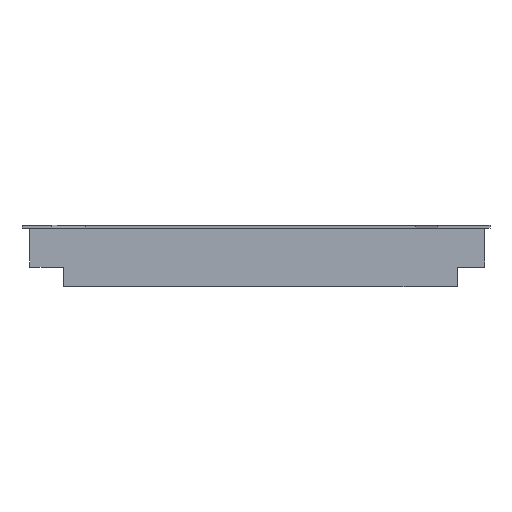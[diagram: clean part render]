
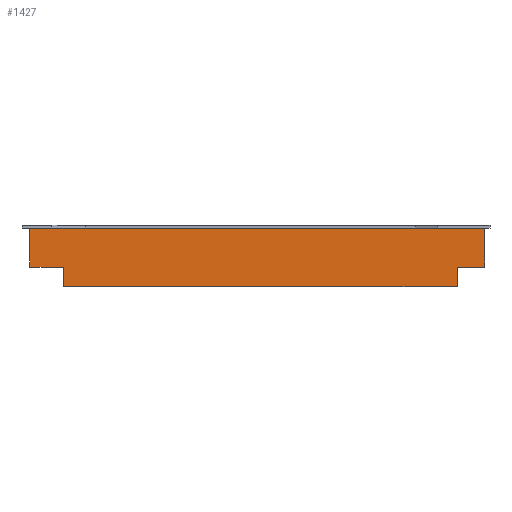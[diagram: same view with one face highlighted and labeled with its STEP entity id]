
A CAD part, left-side view. The second image highlights one B-rep face of the part: STEP entity #1427.
In plain terms, the highlighted planar face has unit normal (-1, 0, 0).
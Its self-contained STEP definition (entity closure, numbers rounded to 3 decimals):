
#126 = PLANE('',#127);
#127 = AXIS2_PLACEMENT_3D('',#128,#129,#130);
#128 = CARTESIAN_POINT('',(161.015,103.675,50.95));
#129 = DIRECTION('',(0.,0.,1.));
#130 = DIRECTION('',(1.,0.,-0.));
#255 = PLANE('',#256);
#256 = AXIS2_PLACEMENT_3D('',#257,#258,#259);
#257 = CARTESIAN_POINT('',(166.15,184.,30.));
#258 = DIRECTION('',(0.,1.,0.));
#259 = DIRECTION('',(0.,0.,1.));
#283 = PLANE('',#284);
#284 = AXIS2_PLACEMENT_3D('',#285,#286,#287);
#285 = CARTESIAN_POINT('',(165.9,172.,37.));
#286 = DIRECTION('',(0.,0.,1.));
#287 = DIRECTION('',(1.,0.,0.));
#310 = PLANE('',#311);
#311 = AXIS2_PLACEMENT_3D('',#312,#313,#314);
#312 = CARTESIAN_POINT('',(165.9,172.,30.));
#313 = DIRECTION('',(0.,1.,0.));
#314 = DIRECTION('',(0.,0.,1.));
#337 = PLANE('',#338);
#338 = AXIS2_PLACEMENT_3D('',#339,#340,#341);
#339 = CARTESIAN_POINT('',(166.15,20.,30.));
#340 = DIRECTION('',(0.,0.,1.));
#341 = DIRECTION('',(1.,0.,0.));
#365 = PLANE('',#366);
#366 = AXIS2_PLACEMENT_3D('',#367,#368,#369);
#367 = CARTESIAN_POINT('',(165.9,30.,30.));
#368 = DIRECTION('',(0.,1.,0.));
#369 = DIRECTION('',(0.,0.,1.));
#392 = PLANE('',#393);
#393 = AXIS2_PLACEMENT_3D('',#394,#395,#396);
#394 = CARTESIAN_POINT('',(165.9,20.,37.));
#395 = DIRECTION('',(0.,0.,1.));
#396 = DIRECTION('',(1.,0.,0.));
#417 = PLANE('',#418);
#418 = AXIS2_PLACEMENT_3D('',#419,#420,#421);
#419 = CARTESIAN_POINT('',(166.15,20.,30.));
#420 = DIRECTION('',(0.,1.,0.));
#421 = DIRECTION('',(0.,0.,1.));
#707 = VERTEX_POINT('',#708);
#708 = CARTESIAN_POINT('',(166.15,20.,50.95));
#727 = EDGE_CURVE('',#707,#728,#730,.T.);
#728 = VERTEX_POINT('',#729);
#729 = CARTESIAN_POINT('',(166.15,184.,50.95));
#730 = SURFACE_CURVE('',#731,(#735,#741),.PCURVE_S1.);
#731 = LINE('',#732,#733);
#732 = CARTESIAN_POINT('',(166.15,61.838,50.95));
#733 = VECTOR('',#734,1.);
#734 = DIRECTION('',(0.,1.,0.));
#735 = PCURVE('',#126,#736);
#736 = DEFINITIONAL_REPRESENTATION('',(#737),#740);
#737 = B_SPLINE_CURVE_WITH_KNOTS('',1,(#738,#739),.UNSPECIFIED.,.F.,.F.,
  (2,2),(-41.838,122.162),.PIECEWISE_BEZIER_KNOTS.);
#738 = CARTESIAN_POINT('',(5.135,-83.675));
#739 = CARTESIAN_POINT('',(5.135,80.325));
#740 = ( GEOMETRIC_REPRESENTATION_CONTEXT(2) 
PARAMETRIC_REPRESENTATION_CONTEXT() REPRESENTATION_CONTEXT('2D SPACE',''
  ) );
#741 = PCURVE('',#742,#747);
#742 = PLANE('',#743);
#743 = AXIS2_PLACEMENT_3D('',#744,#745,#746);
#744 = CARTESIAN_POINT('',(166.15,20.,30.));
#745 = DIRECTION('',(1.,0.,0.));
#746 = DIRECTION('',(0.,0.,1.));
#747 = DEFINITIONAL_REPRESENTATION('',(#748),#751);
#748 = B_SPLINE_CURVE_WITH_KNOTS('',1,(#749,#750),.UNSPECIFIED.,.F.,.F.,
  (2,2),(-41.838,122.162),.PIECEWISE_BEZIER_KNOTS.);
#749 = CARTESIAN_POINT('',(20.95,0.));
#750 = CARTESIAN_POINT('',(20.95,-164.));
#751 = ( GEOMETRIC_REPRESENTATION_CONTEXT(2) 
PARAMETRIC_REPRESENTATION_CONTEXT() REPRESENTATION_CONTEXT('2D SPACE',''
  ) );
#1093 = VERTEX_POINT('',#1094);
#1094 = CARTESIAN_POINT('',(166.15,184.,37.));
#1115 = EDGE_CURVE('',#1093,#728,#1116,.T.);
#1116 = SURFACE_CURVE('',#1117,(#1121,#1128),.PCURVE_S1.);
#1117 = LINE('',#1118,#1119);
#1118 = CARTESIAN_POINT('',(166.15,184.,30.));
#1119 = VECTOR('',#1120,1.);
#1120 = DIRECTION('',(0.,0.,1.));
#1121 = PCURVE('',#255,#1122);
#1122 = DEFINITIONAL_REPRESENTATION('',(#1123),#1127);
#1123 = LINE('',#1124,#1125);
#1124 = CARTESIAN_POINT('',(0.,0.));
#1125 = VECTOR('',#1126,1.);
#1126 = DIRECTION('',(1.,0.));
#1127 = ( GEOMETRIC_REPRESENTATION_CONTEXT(2) 
PARAMETRIC_REPRESENTATION_CONTEXT() REPRESENTATION_CONTEXT('2D SPACE',''
  ) );
#1128 = PCURVE('',#742,#1129);
#1129 = DEFINITIONAL_REPRESENTATION('',(#1130),#1134);
#1130 = LINE('',#1131,#1132);
#1131 = CARTESIAN_POINT('',(0.,-164.));
#1132 = VECTOR('',#1133,1.);
#1133 = DIRECTION('',(1.,0.));
#1134 = ( GEOMETRIC_REPRESENTATION_CONTEXT(2) 
PARAMETRIC_REPRESENTATION_CONTEXT() REPRESENTATION_CONTEXT('2D SPACE',''
  ) );
#1141 = EDGE_CURVE('',#1093,#1142,#1144,.T.);
#1142 = VERTEX_POINT('',#1143);
#1143 = CARTESIAN_POINT('',(166.15,172.,37.));
#1144 = SURFACE_CURVE('',#1145,(#1149,#1155),.PCURVE_S1.);
#1145 = LINE('',#1146,#1147);
#1146 = CARTESIAN_POINT('',(166.15,96.,37.));
#1147 = VECTOR('',#1148,1.);
#1148 = DIRECTION('',(0.,-1.,0.));
#1149 = PCURVE('',#283,#1150);
#1150 = DEFINITIONAL_REPRESENTATION('',(#1151),#1154);
#1151 = B_SPLINE_CURVE_WITH_KNOTS('',1,(#1152,#1153),.UNSPECIFIED.,.F.,
  .F.,(2,2),(-88.,-76.),.PIECEWISE_BEZIER_KNOTS.);
#1152 = CARTESIAN_POINT('',(0.25,12.));
#1153 = CARTESIAN_POINT('',(0.25,0.));
#1154 = ( GEOMETRIC_REPRESENTATION_CONTEXT(2) 
PARAMETRIC_REPRESENTATION_CONTEXT() REPRESENTATION_CONTEXT('2D SPACE',''
  ) );
#1155 = PCURVE('',#742,#1156);
#1156 = DEFINITIONAL_REPRESENTATION('',(#1157),#1160);
#1157 = B_SPLINE_CURVE_WITH_KNOTS('',1,(#1158,#1159),.UNSPECIFIED.,.F.,
  .F.,(2,2),(-88.,-76.),.PIECEWISE_BEZIER_KNOTS.);
#1158 = CARTESIAN_POINT('',(7.,-164.));
#1159 = CARTESIAN_POINT('',(7.,-152.));
#1160 = ( GEOMETRIC_REPRESENTATION_CONTEXT(2) 
PARAMETRIC_REPRESENTATION_CONTEXT() REPRESENTATION_CONTEXT('2D SPACE',''
  ) );
#1188 = VERTEX_POINT('',#1189);
#1189 = CARTESIAN_POINT('',(166.15,172.,30.));
#1210 = EDGE_CURVE('',#1188,#1142,#1211,.T.);
#1211 = SURFACE_CURVE('',#1212,(#1216,#1222),.PCURVE_S1.);
#1212 = LINE('',#1213,#1214);
#1213 = CARTESIAN_POINT('',(166.15,172.,30.));
#1214 = VECTOR('',#1215,1.);
#1215 = DIRECTION('',(0.,0.,1.));
#1216 = PCURVE('',#310,#1217);
#1217 = DEFINITIONAL_REPRESENTATION('',(#1218),#1221);
#1218 = B_SPLINE_CURVE_WITH_KNOTS('',1,(#1219,#1220),.UNSPECIFIED.,.F.,
  .F.,(2,2),(0.,7.),.PIECEWISE_BEZIER_KNOTS.);
#1219 = CARTESIAN_POINT('',(0.,0.25));
#1220 = CARTESIAN_POINT('',(7.,0.25));
#1221 = ( GEOMETRIC_REPRESENTATION_CONTEXT(2) 
PARAMETRIC_REPRESENTATION_CONTEXT() REPRESENTATION_CONTEXT('2D SPACE',''
  ) );
#1222 = PCURVE('',#742,#1223);
#1223 = DEFINITIONAL_REPRESENTATION('',(#1224),#1227);
#1224 = B_SPLINE_CURVE_WITH_KNOTS('',1,(#1225,#1226),.UNSPECIFIED.,.F.,
  .F.,(2,2),(0.,7.),.PIECEWISE_BEZIER_KNOTS.);
#1225 = CARTESIAN_POINT('',(0.,-152.));
#1226 = CARTESIAN_POINT('',(7.,-152.));
#1227 = ( GEOMETRIC_REPRESENTATION_CONTEXT(2) 
PARAMETRIC_REPRESENTATION_CONTEXT() REPRESENTATION_CONTEXT('2D SPACE',''
  ) );
#1234 = EDGE_CURVE('',#1235,#1188,#1237,.T.);
#1235 = VERTEX_POINT('',#1236);
#1236 = CARTESIAN_POINT('',(166.15,30.,30.));
#1237 = SURFACE_CURVE('',#1238,(#1242,#1249),.PCURVE_S1.);
#1238 = LINE('',#1239,#1240);
#1239 = CARTESIAN_POINT('',(166.15,20.,30.));
#1240 = VECTOR('',#1241,1.);
#1241 = DIRECTION('',(0.,1.,0.));
#1242 = PCURVE('',#337,#1243);
#1243 = DEFINITIONAL_REPRESENTATION('',(#1244),#1248);
#1244 = LINE('',#1245,#1246);
#1245 = CARTESIAN_POINT('',(0.,0.));
#1246 = VECTOR('',#1247,1.);
#1247 = DIRECTION('',(0.,1.));
#1248 = ( GEOMETRIC_REPRESENTATION_CONTEXT(2) 
PARAMETRIC_REPRESENTATION_CONTEXT() REPRESENTATION_CONTEXT('2D SPACE',''
  ) );
#1249 = PCURVE('',#742,#1250);
#1250 = DEFINITIONAL_REPRESENTATION('',(#1251),#1255);
#1251 = LINE('',#1252,#1253);
#1252 = CARTESIAN_POINT('',(0.,0.));
#1253 = VECTOR('',#1254,1.);
#1254 = DIRECTION('',(0.,-1.));
#1255 = ( GEOMETRIC_REPRESENTATION_CONTEXT(2) 
PARAMETRIC_REPRESENTATION_CONTEXT() REPRESENTATION_CONTEXT('2D SPACE',''
  ) );
#1284 = EDGE_CURVE('',#1235,#1285,#1287,.T.);
#1285 = VERTEX_POINT('',#1286);
#1286 = CARTESIAN_POINT('',(166.15,30.,37.));
#1287 = SURFACE_CURVE('',#1288,(#1292,#1298),.PCURVE_S1.);
#1288 = LINE('',#1289,#1290);
#1289 = CARTESIAN_POINT('',(166.15,30.,30.));
#1290 = VECTOR('',#1291,1.);
#1291 = DIRECTION('',(0.,0.,1.));
#1292 = PCURVE('',#365,#1293);
#1293 = DEFINITIONAL_REPRESENTATION('',(#1294),#1297);
#1294 = B_SPLINE_CURVE_WITH_KNOTS('',1,(#1295,#1296),.UNSPECIFIED.,.F.,
  .F.,(2,2),(0.,7.),.PIECEWISE_BEZIER_KNOTS.);
#1295 = CARTESIAN_POINT('',(0.,0.25));
#1296 = CARTESIAN_POINT('',(7.,0.25));
#1297 = ( GEOMETRIC_REPRESENTATION_CONTEXT(2) 
PARAMETRIC_REPRESENTATION_CONTEXT() REPRESENTATION_CONTEXT('2D SPACE',''
  ) );
#1298 = PCURVE('',#742,#1299);
#1299 = DEFINITIONAL_REPRESENTATION('',(#1300),#1303);
#1300 = B_SPLINE_CURVE_WITH_KNOTS('',1,(#1301,#1302),.UNSPECIFIED.,.F.,
  .F.,(2,2),(0.,7.),.PIECEWISE_BEZIER_KNOTS.);
#1301 = CARTESIAN_POINT('',(0.,-10.));
#1302 = CARTESIAN_POINT('',(7.,-10.));
#1303 = ( GEOMETRIC_REPRESENTATION_CONTEXT(2) 
PARAMETRIC_REPRESENTATION_CONTEXT() REPRESENTATION_CONTEXT('2D SPACE',''
  ) );
#1331 = EDGE_CURVE('',#1285,#1332,#1334,.T.);
#1332 = VERTEX_POINT('',#1333);
#1333 = CARTESIAN_POINT('',(166.15,20.,37.));
#1334 = SURFACE_CURVE('',#1335,(#1339,#1345),.PCURVE_S1.);
#1335 = LINE('',#1336,#1337);
#1336 = CARTESIAN_POINT('',(166.15,20.,37.));
#1337 = VECTOR('',#1338,1.);
#1338 = DIRECTION('',(0.,-1.,0.));
#1339 = PCURVE('',#392,#1340);
#1340 = DEFINITIONAL_REPRESENTATION('',(#1341),#1344);
#1341 = B_SPLINE_CURVE_WITH_KNOTS('',1,(#1342,#1343),.UNSPECIFIED.,.F.,
  .F.,(2,2),(-10.,0.),.PIECEWISE_BEZIER_KNOTS.);
#1342 = CARTESIAN_POINT('',(0.25,10.));
#1343 = CARTESIAN_POINT('',(0.25,0.));
#1344 = ( GEOMETRIC_REPRESENTATION_CONTEXT(2) 
PARAMETRIC_REPRESENTATION_CONTEXT() REPRESENTATION_CONTEXT('2D SPACE',''
  ) );
#1345 = PCURVE('',#742,#1346);
#1346 = DEFINITIONAL_REPRESENTATION('',(#1347),#1350);
#1347 = B_SPLINE_CURVE_WITH_KNOTS('',1,(#1348,#1349),.UNSPECIFIED.,.F.,
  .F.,(2,2),(-10.,0.),.PIECEWISE_BEZIER_KNOTS.);
#1348 = CARTESIAN_POINT('',(7.,-10.));
#1349 = CARTESIAN_POINT('',(7.,0.));
#1350 = ( GEOMETRIC_REPRESENTATION_CONTEXT(2) 
PARAMETRIC_REPRESENTATION_CONTEXT() REPRESENTATION_CONTEXT('2D SPACE',''
  ) );
#1379 = EDGE_CURVE('',#1332,#707,#1380,.T.);
#1380 = SURFACE_CURVE('',#1381,(#1385,#1392),.PCURVE_S1.);
#1381 = LINE('',#1382,#1383);
#1382 = CARTESIAN_POINT('',(166.15,20.,30.));
#1383 = VECTOR('',#1384,1.);
#1384 = DIRECTION('',(0.,0.,1.));
#1385 = PCURVE('',#417,#1386);
#1386 = DEFINITIONAL_REPRESENTATION('',(#1387),#1391);
#1387 = LINE('',#1388,#1389);
#1388 = CARTESIAN_POINT('',(0.,0.));
#1389 = VECTOR('',#1390,1.);
#1390 = DIRECTION('',(1.,0.));
#1391 = ( GEOMETRIC_REPRESENTATION_CONTEXT(2) 
PARAMETRIC_REPRESENTATION_CONTEXT() REPRESENTATION_CONTEXT('2D SPACE',''
  ) );
#1392 = PCURVE('',#742,#1393);
#1393 = DEFINITIONAL_REPRESENTATION('',(#1394),#1398);
#1394 = LINE('',#1395,#1396);
#1395 = CARTESIAN_POINT('',(0.,0.));
#1396 = VECTOR('',#1397,1.);
#1397 = DIRECTION('',(1.,0.));
#1398 = ( GEOMETRIC_REPRESENTATION_CONTEXT(2) 
PARAMETRIC_REPRESENTATION_CONTEXT() REPRESENTATION_CONTEXT('2D SPACE',''
  ) );
#1427 = ADVANCED_FACE('',(#1428),#742,.F.);
#1428 = FACE_BOUND('',#1429,.F.);
#1429 = EDGE_LOOP('',(#1430,#1431,#1432,#1433,#1434,#1435,#1436,#1437));
#1430 = ORIENTED_EDGE('',*,*,#1379,.F.);
#1431 = ORIENTED_EDGE('',*,*,#1331,.F.);
#1432 = ORIENTED_EDGE('',*,*,#1284,.F.);
#1433 = ORIENTED_EDGE('',*,*,#1234,.T.);
#1434 = ORIENTED_EDGE('',*,*,#1210,.T.);
#1435 = ORIENTED_EDGE('',*,*,#1141,.F.);
#1436 = ORIENTED_EDGE('',*,*,#1115,.T.);
#1437 = ORIENTED_EDGE('',*,*,#727,.F.);
